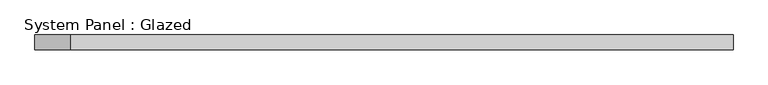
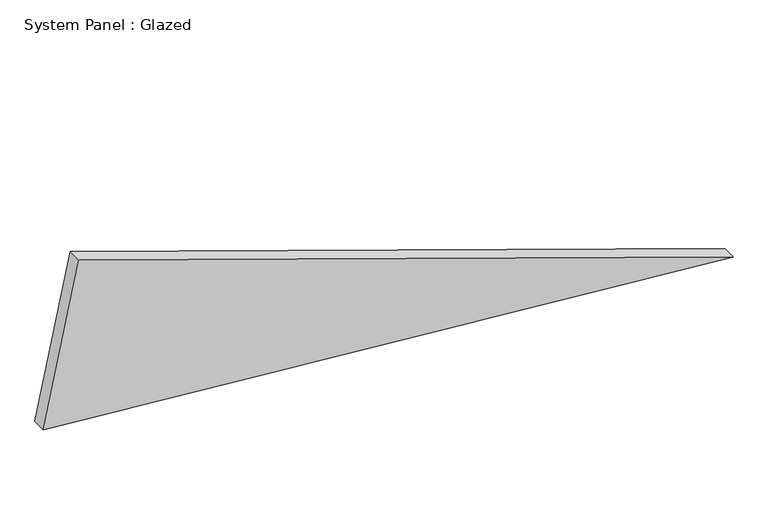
"""IFC4 building model written with IfcOpenShell, lengths in millimetres: plate geometry, System Panel : Glazed."""

from ifc_helpers import new_model, si_unit, frame, origin, place, context, project, spatial, polyline, outline, extrude, source, transform, mapped, element, save


def system_panel_glazed_0d988e88(model_context):
    return source(origin(), model_context, "Body", "SweptSolid", [
        extrude(outline(polyline([(98.7046633, -582.58219), (0.0, 582.58219), (381.7572676, -522.6834032), (98.7046633, -582.58219)])), frame((0.0, -49.5, 0.0), z_axis=(0.0, 1.0, 0.0), x_axis=(0.0, 0.0, 1.0)), (0.0, 0.0, 1.0), 25.0),
    ])


if __name__ == "__main__":
    model = new_model("IFC4")
    model_context = context("Model", 3, world=origin())
    ifc_project = project(units=[si_unit("LENGTHUNIT", "METRE", prefix="MILLI")], contexts=[model_context])
    site = spatial("IfcSite", under=ifc_project)
    building = spatial("IfcBuilding", under=site)
    placement = place(None, origin())
    system_panel_glazed_shape = system_panel_glazed_0d988e88(model_context)
    element("IfcPlate", 1, ObjectType="System Panel : Glazed", at=placement, inside=building, context=model_context, shape_type="MappedRepresentation", body=[
        mapped(system_panel_glazed_shape, transform((0.0, 0.0, 0.0), x_axis=(1.0, 0.0, 0.0), y_axis=(0.0, 1.0, 0.0), z_axis=(0.0, 0.0, 1.0))),
    ])
    save(model, "model.ifc")
